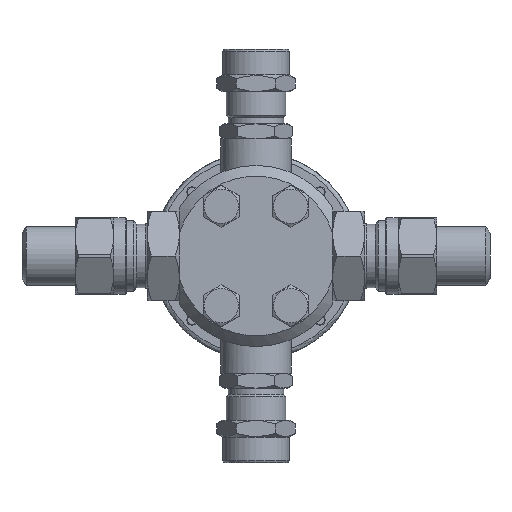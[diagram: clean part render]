
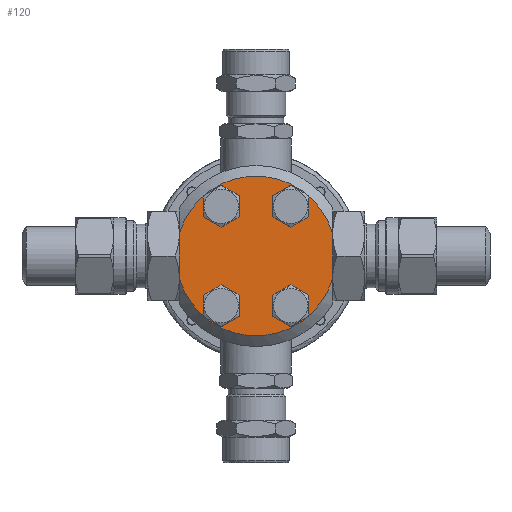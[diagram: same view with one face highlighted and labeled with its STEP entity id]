
A CAD part, front view. The second image highlights one B-rep face of the part: STEP entity #120.
In plain terms, the highlighted planar face has unit normal (0, -1, 0).
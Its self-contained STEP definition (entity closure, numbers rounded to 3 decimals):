
#120=ADVANCED_FACE('',(#5484,#5486,#5488,#5490,#5492),#5494,.T.);
#5484=FACE_BOUND('',#5485,.T.);
#5485=EDGE_LOOP('',(#21016,#21017,#21018,#21019));
#5486=FACE_BOUND('',#5487,.T.);
#5487=EDGE_LOOP('',(#21020,#21021,#21022,#21023,#21024));
#5488=FACE_BOUND('',#5489,.T.);
#5489=EDGE_LOOP('',(#21025,#21026,#21027,#21028,#21029));
#5490=FACE_BOUND('',#5491,.T.);
#5491=EDGE_LOOP('',(#21030,#21031,#21032,#21033,#21034));
#5492=FACE_OUTER_BOUND('',#5493,.T.);
#5493=EDGE_LOOP('',(#21035,#21036,#21037,#21038));
#5494=PLANE('',#5495);
#5495=AXIS2_PLACEMENT_3D('',#5496,#5497,#5498);
#5496=CARTESIAN_POINT('',(0.,-23.,0.));
#5497=DIRECTION('',(-0.,-1.,-0.));
#5498=DIRECTION('',(1.,0.,0.));
#21016=ORIENTED_EDGE('',*,*,#34521,.F.);
#21017=ORIENTED_EDGE('',*,*,#34522,.T.);
#21018=ORIENTED_EDGE('',*,*,#34523,.F.);
#21019=ORIENTED_EDGE('',*,*,#34524,.F.);
#21020=ORIENTED_EDGE('',*,*,#34525,.F.);
#21021=ORIENTED_EDGE('',*,*,#34526,.T.);
#21022=ORIENTED_EDGE('',*,*,#34527,.T.);
#21023=ORIENTED_EDGE('',*,*,#34528,.F.);
#21024=ORIENTED_EDGE('',*,*,#34529,.F.);
#21025=ORIENTED_EDGE('',*,*,#34530,.F.);
#21026=ORIENTED_EDGE('',*,*,#34531,.T.);
#21027=ORIENTED_EDGE('',*,*,#34532,.T.);
#21028=ORIENTED_EDGE('',*,*,#34533,.F.);
#21029=ORIENTED_EDGE('',*,*,#34534,.F.);
#21030=ORIENTED_EDGE('',*,*,#34535,.F.);
#21031=ORIENTED_EDGE('',*,*,#34520,.T.);
#21032=ORIENTED_EDGE('',*,*,#34517,.T.);
#21033=ORIENTED_EDGE('',*,*,#34536,.F.);
#21034=ORIENTED_EDGE('',*,*,#34537,.F.);
#21035=ORIENTED_EDGE('',*,*,#34538,.T.);
#21036=ORIENTED_EDGE('',*,*,#34539,.T.);
#21037=ORIENTED_EDGE('',*,*,#34540,.T.);
#21038=ORIENTED_EDGE('',*,*,#34541,.T.);
#34517=EDGE_CURVE('',#39154,#39151,#39155,.T.);
#34520=EDGE_CURVE('',#39152,#39154,#39159,.T.);
#34521=EDGE_CURVE('',#39160,#39161,#39162,.F.);
#34522=EDGE_CURVE('',#39160,#39163,#39164,.T.);
#34523=EDGE_CURVE('',#39165,#39163,#39166,.F.);
#34524=EDGE_CURVE('',#39161,#39165,#39167,.T.);
#34525=EDGE_CURVE('',#39168,#39169,#39170,.F.);
#34526=EDGE_CURVE('',#39168,#39171,#39172,.T.);
#34527=EDGE_CURVE('',#39171,#39173,#39174,.T.);
#34528=EDGE_CURVE('',#39175,#39173,#39176,.F.);
#34529=EDGE_CURVE('',#39169,#39175,#39177,.T.);
#34530=EDGE_CURVE('',#39178,#39179,#39180,.F.);
#34531=EDGE_CURVE('',#39178,#39181,#39182,.T.);
#34532=EDGE_CURVE('',#39181,#39183,#39184,.T.);
#34533=EDGE_CURVE('',#39185,#39183,#39186,.F.);
#34534=EDGE_CURVE('',#39179,#39185,#39187,.T.);
#34535=EDGE_CURVE('',#39152,#39188,#39189,.F.);
#34536=EDGE_CURVE('',#39190,#39151,#39191,.F.);
#34537=EDGE_CURVE('',#39188,#39190,#39192,.T.);
#34538=EDGE_CURVE('',#39193,#39194,#39195,.F.);
#34539=EDGE_CURVE('',#39194,#39196,#39197,.T.);
#34540=EDGE_CURVE('',#39196,#39198,#39199,.F.);
#34541=EDGE_CURVE('',#39198,#39193,#39200,.T.);
#39151=VERTEX_POINT('',#46819);
#39152=VERTEX_POINT('',#46820);
#39154=VERTEX_POINT('',#46825);
#39155=CIRCLE('',#46826,5.5);
#39159=CIRCLE('',#46838,5.5);
#39160=VERTEX_POINT('',#46842);
#39161=VERTEX_POINT('',#46843);
#39162=LINE('',#46844,#46845);
#39163=VERTEX_POINT('',#46847);
#39164=CIRCLE('',#46848,5.5);
#39165=VERTEX_POINT('',#46852);
#39166=LINE('',#46853,#46854);
#39167=CIRCLE('',#46856,7.6);
#39168=VERTEX_POINT('',#46860);
#39169=VERTEX_POINT('',#46861);
#39170=LINE('',#46862,#46863);
#39171=VERTEX_POINT('',#46865);
#39172=CIRCLE('',#46866,5.5);
#39173=VERTEX_POINT('',#46870);
#39174=CIRCLE('',#46871,5.5);
#39175=VERTEX_POINT('',#46875);
#39176=LINE('',#46876,#46877);
#39177=CIRCLE('',#46879,7.6);
#39178=VERTEX_POINT('',#46883);
#39179=VERTEX_POINT('',#46884);
#39180=LINE('',#46885,#46886);
#39181=VERTEX_POINT('',#46888);
#39182=CIRCLE('',#46889,5.5);
#39183=VERTEX_POINT('',#46893);
#39184=CIRCLE('',#46894,5.5);
#39185=VERTEX_POINT('',#46898);
#39186=LINE('',#46899,#46900);
#39187=CIRCLE('',#46902,7.6);
#39188=VERTEX_POINT('',#46906);
#39189=LINE('',#46907,#46908);
#39190=VERTEX_POINT('',#46910);
#39191=LINE('',#46911,#46912);
#39192=CIRCLE('',#46914,7.6);
#39193=VERTEX_POINT('',#46918);
#39194=VERTEX_POINT('',#46919);
#39195=LINE('',#46920,#46921);
#39196=VERTEX_POINT('',#46923);
#39197=CIRCLE('',#46924,37.5);
#39198=VERTEX_POINT('',#46928);
#39199=LINE('',#46929,#46930);
#39200=CIRCLE('',#46932,37.5);
#46819=CARTESIAN_POINT('',(-10.868,-23.,22.87));
#46820=CARTESIAN_POINT('',(-11.024,-23.,24.732));
#46825=CARTESIAN_POINT('',(-10.847,-23.,23.346));
#46826=AXIS2_PLACEMENT_3D('',#46827,#46828,#46829);
#46827=CARTESIAN_POINT('',(-16.347,-23.,23.346));
#46828=DIRECTION('',(-0.,1.,0.));
#46829=DIRECTION('',(1.,0.,0.));
#46838=AXIS2_PLACEMENT_3D('',#46839,#46840,#46841);
#46839=CARTESIAN_POINT('',(-16.347,-23.,23.346));
#46840=DIRECTION('',(-0.,1.,0.));
#46841=DIRECTION('',(0.968,0.,0.252));
#46842=CARTESIAN_POINT('',(-11.024,-23.,-21.96));
#46843=CARTESIAN_POINT('',(-8.874,-23.,-21.96));
#46844=CARTESIAN_POINT('',(-8.874,-23.,-21.96));
#46845=VECTOR('',#46846,1.);
#46846=DIRECTION('',(-1.,0.,0.));
#46847=CARTESIAN_POINT('',(-10.868,-23.,-23.822));
#46848=AXIS2_PLACEMENT_3D('',#46849,#46850,#46851);
#46849=CARTESIAN_POINT('',(-16.347,-23.,-23.346));
#46850=DIRECTION('',(0.,1.,-0.));
#46851=DIRECTION('',(0.968,0.,0.252));
#46852=CARTESIAN_POINT('',(-8.762,-23.,-23.822));
#46853=CARTESIAN_POINT('',(-10.868,-23.,-23.822));
#46854=VECTOR('',#46855,1.);
#46855=DIRECTION('',(1.,0.,0.));
#46856=AXIS2_PLACEMENT_3D('',#46857,#46858,#46859);
#46857=CARTESIAN_POINT('',(-16.347,-23.,-23.346));
#46858=DIRECTION('',(0.,-1.,0.));
#46859=DIRECTION('',(0.983,0.,0.182));
#46860=CARTESIAN_POINT('',(21.669,-23.,24.732));
#46861=CARTESIAN_POINT('',(23.819,-23.,24.732));
#46862=CARTESIAN_POINT('',(23.819,-23.,24.732));
#46863=VECTOR('',#46864,1.);
#46864=DIRECTION('',(-1.,0.,0.));
#46865=CARTESIAN_POINT('',(21.847,-23.,23.346));
#46866=AXIS2_PLACEMENT_3D('',#46867,#46868,#46869);
#46867=CARTESIAN_POINT('',(16.347,-23.,23.346));
#46868=DIRECTION('',(-0.,1.,0.));
#46869=DIRECTION('',(0.968,0.,0.252));
#46870=CARTESIAN_POINT('',(21.826,-23.,22.87));
#46871=AXIS2_PLACEMENT_3D('',#46872,#46873,#46874);
#46872=CARTESIAN_POINT('',(16.347,-23.,23.346));
#46873=DIRECTION('',(-0.,1.,0.));
#46874=DIRECTION('',(1.,0.,0.));
#46875=CARTESIAN_POINT('',(23.932,-23.,22.87));
#46876=CARTESIAN_POINT('',(21.826,-23.,22.87));
#46877=VECTOR('',#46878,1.);
#46878=DIRECTION('',(1.,0.,0.));
#46879=AXIS2_PLACEMENT_3D('',#46880,#46881,#46882);
#46880=CARTESIAN_POINT('',(16.347,-23.,23.346));
#46881=DIRECTION('',(0.,-1.,0.));
#46882=DIRECTION('',(0.983,0.,0.182));
#46883=CARTESIAN_POINT('',(21.669,-23.,-21.96));
#46884=CARTESIAN_POINT('',(23.819,-23.,-21.96));
#46885=CARTESIAN_POINT('',(23.819,-23.,-21.96));
#46886=VECTOR('',#46887,1.);
#46887=DIRECTION('',(-1.,0.,0.));
#46888=CARTESIAN_POINT('',(21.847,-23.,-23.346));
#46889=AXIS2_PLACEMENT_3D('',#46890,#46891,#46892);
#46890=CARTESIAN_POINT('',(16.347,-23.,-23.346));
#46891=DIRECTION('',(-0.,1.,0.));
#46892=DIRECTION('',(0.968,0.,0.252));
#46893=CARTESIAN_POINT('',(21.826,-23.,-23.822));
#46894=AXIS2_PLACEMENT_3D('',#46895,#46896,#46897);
#46895=CARTESIAN_POINT('',(16.347,-23.,-23.346));
#46896=DIRECTION('',(-0.,1.,0.));
#46897=DIRECTION('',(1.,0.,0.));
#46898=CARTESIAN_POINT('',(23.932,-23.,-23.822));
#46899=CARTESIAN_POINT('',(21.826,-23.,-23.822));
#46900=VECTOR('',#46901,1.);
#46901=DIRECTION('',(1.,0.,0.));
#46902=AXIS2_PLACEMENT_3D('',#46903,#46904,#46905);
#46903=CARTESIAN_POINT('',(16.347,-23.,-23.346));
#46904=DIRECTION('',(0.,-1.,0.));
#46905=DIRECTION('',(0.983,0.,0.182));
#46906=CARTESIAN_POINT('',(-8.874,-23.,24.732));
#46907=CARTESIAN_POINT('',(-8.874,-23.,24.732));
#46908=VECTOR('',#46909,1.);
#46909=DIRECTION('',(-1.,0.,0.));
#46910=CARTESIAN_POINT('',(-8.762,-23.,22.87));
#46911=CARTESIAN_POINT('',(-10.868,-23.,22.87));
#46912=VECTOR('',#46913,1.);
#46913=DIRECTION('',(1.,0.,0.));
#46914=AXIS2_PLACEMENT_3D('',#46915,#46916,#46917);
#46915=CARTESIAN_POINT('',(-16.347,-23.,23.346));
#46916=DIRECTION('',(0.,-1.,0.));
#46917=DIRECTION('',(0.983,0.,0.182));
#46918=CARTESIAN_POINT('',(36.,-23.,-10.5));
#46919=CARTESIAN_POINT('',(36.,-23.,10.5));
#46920=CARTESIAN_POINT('',(36.,-23.,10.5));
#46921=VECTOR('',#46922,1.);
#46922=DIRECTION('',(0.,0.,-1.));
#46923=CARTESIAN_POINT('',(-36.,-23.,10.5));
#46924=AXIS2_PLACEMENT_3D('',#46925,#46926,#46927);
#46925=CARTESIAN_POINT('',(0.,-23.,0.));
#46926=DIRECTION('',(0.,-1.,0.));
#46927=DIRECTION('',(0.96,0.,0.28));
#46928=CARTESIAN_POINT('',(-36.,-23.,-10.5));
#46929=CARTESIAN_POINT('',(-36.,-23.,-10.5));
#46930=VECTOR('',#46931,1.);
#46931=DIRECTION('',(0.,0.,1.));
#46932=AXIS2_PLACEMENT_3D('',#46933,#46934,#46935);
#46933=CARTESIAN_POINT('',(0.,-23.,0.));
#46934=DIRECTION('',(0.,-1.,0.));
#46935=DIRECTION('',(-0.96,0.,-0.28));
